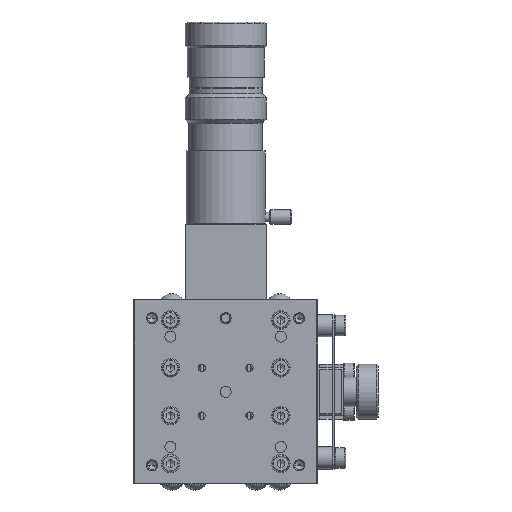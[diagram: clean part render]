
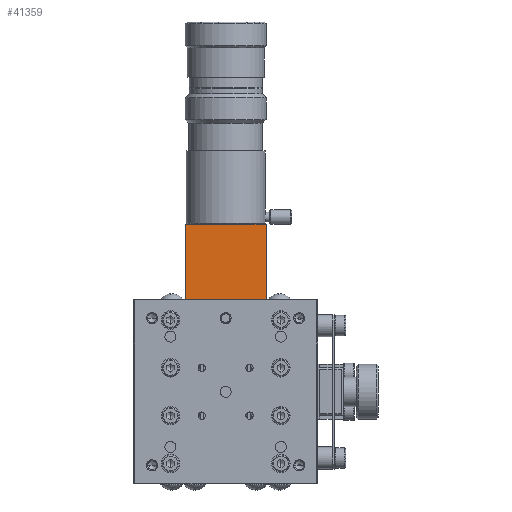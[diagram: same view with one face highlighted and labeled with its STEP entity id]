
A CAD part, top view. The second image highlights one B-rep face of the part: STEP entity #41359.
In plain terms, the highlighted planar face has unit normal (0, 0, 1).
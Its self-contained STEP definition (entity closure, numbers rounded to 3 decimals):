
#2790 = CARTESIAN_POINT ( 'NONE',  ( -11., 25., -0.5 ) ) ;
#10180 = DIRECTION ( 'NONE',  ( 1., 0., 0. ) ) ;
#10181 = VECTOR ( 'NONE', #10180, 1000. ) ;
#10182 = CARTESIAN_POINT ( 'NONE',  ( -11.001, 25., -0.5 ) ) ;
#10183 = LINE ( 'NONE', #10182, #10181 ) ;
#10184 = CARTESIAN_POINT ( 'NONE',  ( 11., 25., -0.5 ) ) ;
#22251 = CARTESIAN_POINT ( 'NONE',  ( 11., 45.5, -0.5 ) ) ;
#22252 = DIRECTION ( 'NONE',  ( 1., 0., 0. ) ) ;
#22253 = VECTOR ( 'NONE', #22252, 1000. ) ;
#22254 = CARTESIAN_POINT ( 'NONE',  ( -11., 45.5, -0.5 ) ) ;
#22255 = LINE ( 'NONE', #22254, #22253 ) ;
#22270 = DIRECTION ( 'NONE',  ( 0., 0., 1. ) ) ;
#22271 = CARTESIAN_POINT ( 'NONE',  ( -11., 45.5, -0.5 ) ) ;
#22272 = AXIS2_PLACEMENT_3D ( 'NONE', #22271, #22270, #22334 ) ;
#22273 = PLANE ( 'NONE',  #22272 ) ;
#22274 = FACE_OUTER_BOUND ( 'NONE', #41360, .T. ) ;
#22297 = CARTESIAN_POINT ( 'NONE',  ( -11., 45.5, -0.5 ) ) ;
#22312 = DIRECTION ( 'NONE',  ( 0., -1., 0. ) ) ;
#22313 = VECTOR ( 'NONE', #22312, 1000. ) ;
#22314 = CARTESIAN_POINT ( 'NONE',  ( 11., 45.5, -0.5 ) ) ;
#22315 = LINE ( 'NONE', #22314, #22313 ) ;
#22330 = DIRECTION ( 'NONE',  ( 0., -1., 0. ) ) ;
#22331 = VECTOR ( 'NONE', #22330, 1000. ) ;
#22332 = CARTESIAN_POINT ( 'NONE',  ( -11., 45.5, -0.5 ) ) ;
#22333 = LINE ( 'NONE', #22332, #22331 ) ;
#22334 = DIRECTION ( 'NONE',  ( -1., 0., 0. ) ) ;
#29700 = VERTEX_POINT ( 'NONE', #2790 ) ;
#33831 = VERTEX_POINT ( 'NONE', #10184 ) ;
#33835 = EDGE_CURVE ( 'NONE', #29700, #33831, #10183, .T. ) ;
#41318 = EDGE_CURVE ( 'NONE', #41340, #41319, #22255, .T. ) ;
#41319 = VERTEX_POINT ( 'NONE', #22251 ) ;
#41340 = VERTEX_POINT ( 'NONE', #22297 ) ;
#41359 = ADVANCED_FACE ( 'NONE', ( #22274 ), #22273, .T. ) ;
#41360 = EDGE_LOOP ( 'NONE', ( #41361, #41363, #41364, #41422 ) ) ;
#41361 = ORIENTED_EDGE ( 'NONE', *, *, #41362, .T. ) ;
#41362 = EDGE_CURVE ( 'NONE', #41340, #29700, #22333, .T. ) ;
#41363 = ORIENTED_EDGE ( 'NONE', *, *, #33835, .T. ) ;
#41364 = ORIENTED_EDGE ( 'NONE', *, *, #41375, .F. ) ;
#41375 = EDGE_CURVE ( 'NONE', #41319, #33831, #22315, .T. ) ;
#41422 = ORIENTED_EDGE ( 'NONE', *, *, #41318, .F. ) ;
